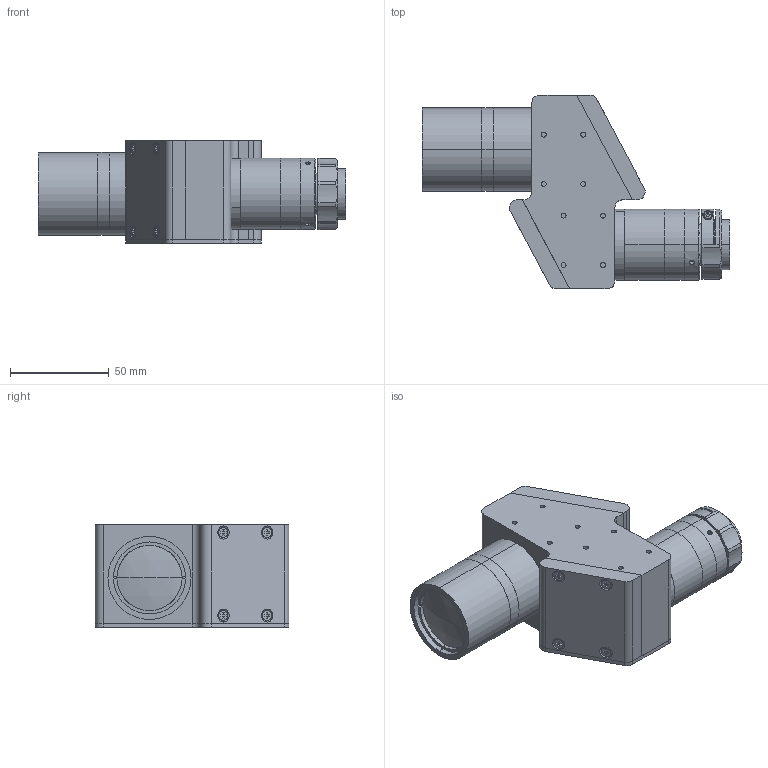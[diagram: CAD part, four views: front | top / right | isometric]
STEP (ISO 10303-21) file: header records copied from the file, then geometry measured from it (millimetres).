
FILE_DESCRIPTION (( 'STEP AP203' ), '1' );
FILE_NAME ('XF-MH065X289.STEP', '2020-08-24T07:15:00', ( 'canrill-02' ), ( '' ), 'SwSTEP 2.0', 'SolidWorks 2014', '' );
FILE_SCHEMA (( 'CONFIG_CONTROL_DESIGN' ));
Length unit declared in the file: millimetre
Products named in the file (1): XF-MH065X289
Bounding box: 155.38 x 98 x 52 mm (x, y, z)
Surface area: 46003.8 mm2 (no closed solid volume)
Topology: 0 solids, 31 shells, 424 faces, 1325 edges, 909 vertices
Faces by surface type: plane 221, cylinder 158, cone 41, sphere 2, torus 2
Entity records: 15025 total; most frequent: CARTESIAN_POINT 2978, DIRECTION 2615, ORIENTED_EDGE 2207, EDGE_CURVE 1323, VERTEX_POINT 909, AXIS2_PLACEMENT_3D 890, LINE 835, VECTOR 835
